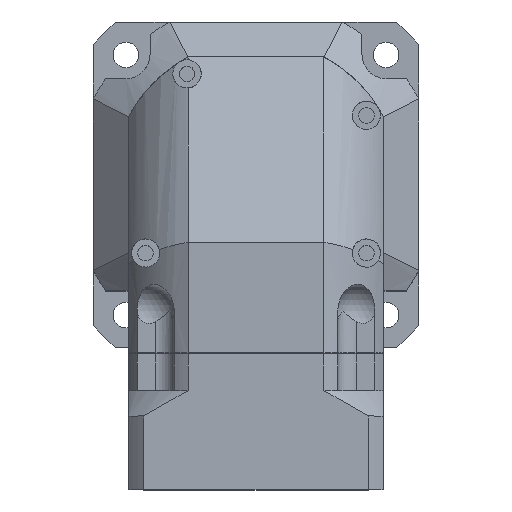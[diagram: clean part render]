
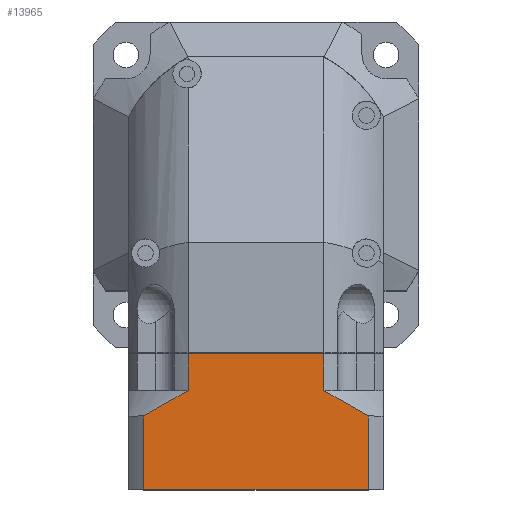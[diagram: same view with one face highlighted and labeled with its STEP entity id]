
A CAD part, top view. The second image highlights one B-rep face of the part: STEP entity #13965.
In plain terms, the highlighted planar face has unit normal (0, 0, 1) as drawn and (0, 0, -1) by its records, which use the part's own axes.
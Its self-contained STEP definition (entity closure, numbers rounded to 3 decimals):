
#12625=DIRECTION('',(-1.,0.,0.));
#12626=VECTOR('',#12625,79.373);
#12627=CARTESIAN_POINT('',(39.686,48.,-45.));
#12628=LINE('',#12627,#12626);
#12757=DIRECTION('',(0.,1.,0.));
#12758=VECTOR('',#12757,26.);
#12759=CARTESIAN_POINT('',(-39.686,22.,-45.));
#12760=LINE('',#12759,#12758);
#12761=CARTESIAN_POINT('',(-24.,13.,-45.));
#12762=CARTESIAN_POINT('',(-25.183,13.557,-45.));
#12763=CARTESIAN_POINT('',(-27.606,14.761,-45.));
#12764=CARTESIAN_POINT('',(-31.377,16.828,-45.));
#12765=CARTESIAN_POINT('',(-35.365,19.203,-45.));
#12766=CARTESIAN_POINT('',(-38.217,21.028,-45.));
#12767=CARTESIAN_POINT('',(-39.686,22.,-45.));
#12769=DIRECTION('',(0.,1.,0.));
#12770=VECTOR('',#12769,13.);
#12771=CARTESIAN_POINT('',(24.,0.,-45.));
#12772=LINE('',#12771,#12770);
#12773=CARTESIAN_POINT('',(39.686,22.,-45.));
#12774=CARTESIAN_POINT('',(38.211,21.024,-45.));
#12775=CARTESIAN_POINT('',(35.348,19.192,-45.));
#12776=CARTESIAN_POINT('',(31.35,16.813,-45.));
#12777=CARTESIAN_POINT('',(27.582,14.749,-45.));
#12778=CARTESIAN_POINT('',(25.174,13.552,-45.));
#12779=CARTESIAN_POINT('',(24.,13.,-45.));
#12781=DIRECTION('',(0.,1.,0.));
#12782=VECTOR('',#12781,26.);
#12783=CARTESIAN_POINT('',(39.686,22.,-45.));
#12784=LINE('',#12783,#12782);
#12963=DIRECTION('',(-1.,0.,0.));
#12964=VECTOR('',#12963,48.);
#12965=CARTESIAN_POINT('',(24.,0.,-45.));
#12966=LINE('',#12965,#12964);
#12977=DIRECTION('',(0.,1.,0.));
#12978=VECTOR('',#12977,13.);
#12979=CARTESIAN_POINT('',(-24.,0.,-45.));
#12980=LINE('',#12979,#12978);
#13429=CARTESIAN_POINT('',(-24.,0.,-45.));
#13431=VERTEX_POINT('',#13429);
#13475=CARTESIAN_POINT('',(24.,0.,-45.));
#13476=VERTEX_POINT('',#13475);
#13517=CARTESIAN_POINT('',(-24.,13.,-45.));
#13518=VERTEX_POINT('',#13517);
#13531=CARTESIAN_POINT('',(24.,13.,-45.));
#13532=VERTEX_POINT('',#13531);
#13534=CARTESIAN_POINT('',(39.686,48.,-45.));
#13536=VERTEX_POINT('',#13534);
#13537=CARTESIAN_POINT('',(-39.686,48.,-45.));
#13539=VERTEX_POINT('',#13537);
#13550=CARTESIAN_POINT('',(39.686,22.,-45.));
#13552=VERTEX_POINT('',#13550);
#13553=CARTESIAN_POINT('',(-39.686,22.,-45.));
#13555=VERTEX_POINT('',#13553);
#13945=CARTESIAN_POINT('',(24.,0.,-45.));
#13946=DIRECTION('',(0.,0.,-1.));
#13947=DIRECTION('',(-1.,0.,0.));
#13948=AXIS2_PLACEMENT_3D('',#13945,#13946,#13947);
#13949=PLANE('',#13948);
#13950=ORIENTED_EDGE('',*,*,#13698,.T.);
#13951=ORIENTED_EDGE('',*,*,#13939,.F.);
#13953=ORIENTED_EDGE('',*,*,#13952,.F.);
#13955=ORIENTED_EDGE('',*,*,#13954,.F.);
#13957=ORIENTED_EDGE('',*,*,#13956,.F.);
#13959=ORIENTED_EDGE('',*,*,#13958,.T.);
#13961=ORIENTED_EDGE('',*,*,#13960,.F.);
#13962=ORIENTED_EDGE('',*,*,#13920,.T.);
#13963=EDGE_LOOP('',(#13950,#13951,#13953,#13955,#13957,#13959,#13961,#13962));
#13964=FACE_OUTER_BOUND('',#13963,.F.);
#13965=ADVANCED_FACE('',(#13964),#13949,.T.);
#12768=B_SPLINE_CURVE_WITH_KNOTS('',3,(#12761,#12762,#12763,#12764,#12765,
#12766,#12767),.UNSPECIFIED.,.F.,.F.,(4,1,1,1,4),(0.,0.25,0.5,0.75,
1.),.UNSPECIFIED.);
#12780=B_SPLINE_CURVE_WITH_KNOTS('',3,(#12773,#12774,#12775,#12776,#12777,
#12778,#12779),.UNSPECIFIED.,.F.,.F.,(4,1,1,1,4),(0.,0.25,0.5,0.75,
1.),.UNSPECIFIED.);
#13698=EDGE_CURVE('',#13536,#13539,#12628,.T.);
#13920=EDGE_CURVE('',#13552,#13536,#12784,.T.);
#13939=EDGE_CURVE('',#13555,#13539,#12760,.T.);
#13952=EDGE_CURVE('',#13518,#13555,#12768,.T.);
#13954=EDGE_CURVE('',#13431,#13518,#12980,.T.);
#13956=EDGE_CURVE('',#13476,#13431,#12966,.T.);
#13958=EDGE_CURVE('',#13476,#13532,#12772,.T.);
#13960=EDGE_CURVE('',#13552,#13532,#12780,.T.);
